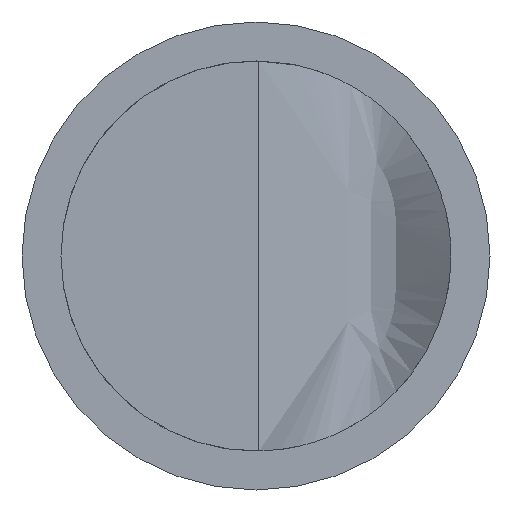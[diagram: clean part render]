
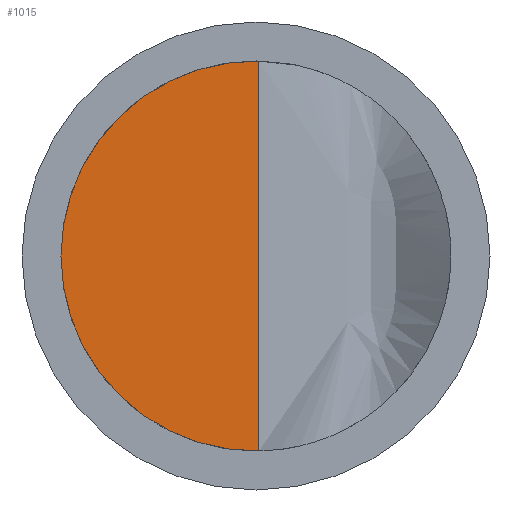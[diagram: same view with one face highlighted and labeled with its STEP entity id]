
A CAD part, front view. The second image highlights one B-rep face of the part: STEP entity #1015.
In plain terms, the highlighted planar face has unit normal (0, -1, 0).
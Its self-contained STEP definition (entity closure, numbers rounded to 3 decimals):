
#671=CARTESIAN_POINT('',(0.037,-53.,2.5));
#712=DIRECTION('',(0.,0.,1.));
#713=VECTOR('',#712,4.999);
#714=CARTESIAN_POINT('',(0.037,-53.,-2.5));
#715=LINE('',#714,#713);
#719=CARTESIAN_POINT('',(0.,-53.,0.));
#720=DIRECTION('',(0.,1.,0.));
#721=DIRECTION('',(0.015,0.,-1.));
#722=AXIS2_PLACEMENT_3D('',#719,#720,#721);
#727=CARTESIAN_POINT('',(0.,-53.,0.));
#728=DIRECTION('',(0.,-1.,0.));
#729=DIRECTION('',(0.015,0.,1.));
#730=AXIS2_PLACEMENT_3D('',#727,#728,#729);
#763=CARTESIAN_POINT('',(0.037,-53.,-2.5));
#945=CARTESIAN_POINT('',(-2.5,-53.,0.));
#947=VERTEX_POINT('',#945);
#958=VERTEX_POINT('',#671);
#960=VERTEX_POINT('',#763);
#1004=CARTESIAN_POINT('',(0.,-53.,0.));
#1005=DIRECTION('',(0.,-1.,0.));
#1006=DIRECTION('',(-1.,0.,0.));
#1007=AXIS2_PLACEMENT_3D('',#1004,#1005,#1006);
#1008=PLANE('',#1007);
#1009=ORIENTED_EDGE('',*,*,#975,.F.);
#1011=ORIENTED_EDGE('',*,*,#1010,.T.);
#1012=ORIENTED_EDGE('',*,*,#986,.F.);
#1013=EDGE_LOOP('',(#1009,#1011,#1012));
#1014=FACE_OUTER_BOUND('',#1013,.F.);
#723=CIRCLE('',#722,2.5);
#731=CIRCLE('',#730,2.5);
#975=EDGE_CURVE('',#960,#958,#715,.T.);
#986=EDGE_CURVE('',#958,#947,#731,.T.);
#1010=EDGE_CURVE('',#960,#947,#723,.T.);
#1015=ADVANCED_FACE('',(#1014),#1008,.T.);
